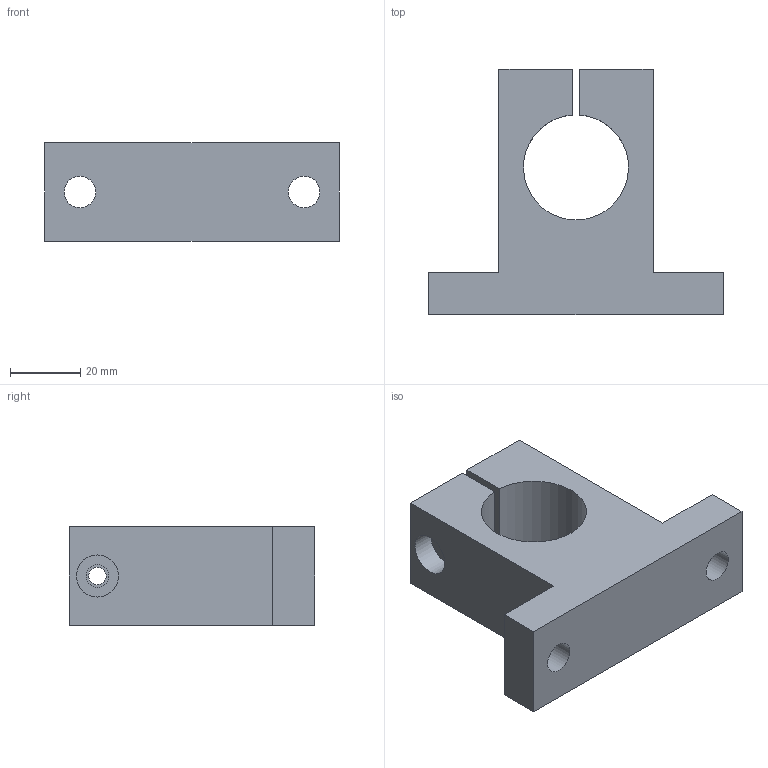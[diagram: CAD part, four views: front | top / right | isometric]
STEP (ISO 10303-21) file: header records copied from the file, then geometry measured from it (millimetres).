
FILE_DESCRIPTION(/* description */ ('Unknown'),/* implementation_level */ '2;1');
FILE_NAME(/* name */ 'SK30',/* time_stamp */ '2025-02-04T09:03:56+08:00',/* author */ ('Unknown'),/* organization */ ('Unknown'),/* preprocessor_version */ 'ST-DEVELOPER v18.102',/* originating_system */ 'Solid Edge',/* authorisation */ 'Unknown');
FILE_SCHEMA (('AUTOMOTIVE_DESIGN {1 0 10303 214 3 1 1}'));
Length unit declared in the file: millimetre
Products named in the file (1): SK30
Bounding box: 84 x 70 x 28 mm (x, y, z)
Volume: 76003.9 mm3; surface area: 18724.5 mm2
Topology: 1 solids, 1 shells, 20 faces, 51 edges, 34 vertices
Faces by surface type: plane 14, cylinder 6
Full cylindrical faces by diameter (mm): 5 x1, 6.5 x1, 9 x2, 12 x1
Entity records: 628 total; most frequent: CARTESIAN_POINT 101, DIRECTION 100, ORIENTED_EDGE 92, EDGE_CURVE 46, VERTEX_POINT 34, LINE 34, VECTOR 34, EDGE_LOOP 34
